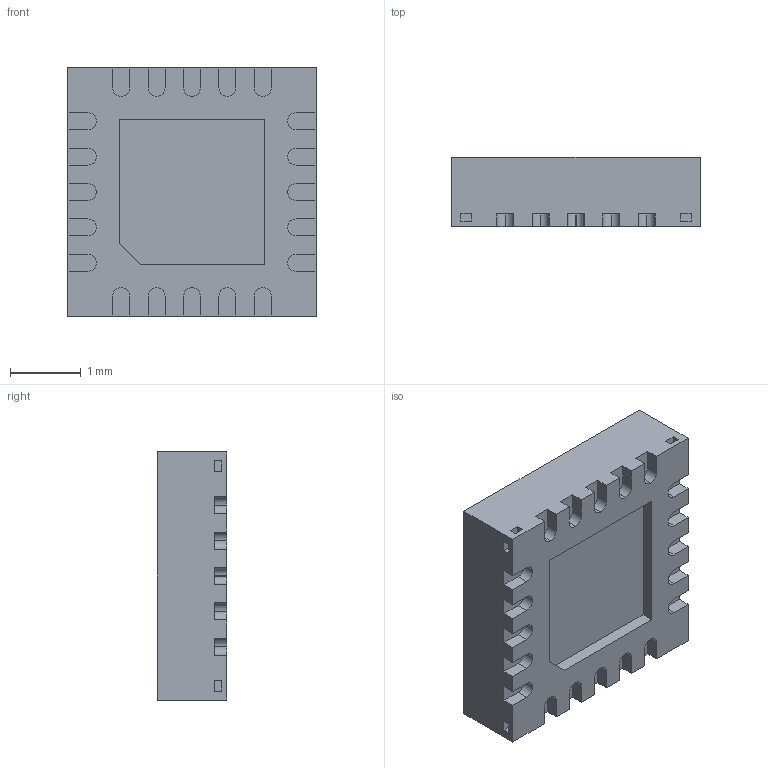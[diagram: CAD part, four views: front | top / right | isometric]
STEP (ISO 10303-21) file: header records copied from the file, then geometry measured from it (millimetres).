
FILE_DESCRIPTION(('FreeCAD Model'),'2;1');
FILE_NAME('Open CASCADE Shape Model','2024-11-04T22:26:20',('Author'),( ''),'Open CASCADE STEP processor 7.6','FreeCAD','Unknown');
FILE_SCHEMA(('AUTOMOTIVE_DESIGN { 1 0 10303 214 1 1 1 1 }'));
Length unit declared in the file: millimetre
Products named in the file (1): BODY
Bounding box: 3.5 x 0.97 x 3.5 mm (x, y, z)
Volume: 10.9 mm3; surface area: 42.7 mm2
Topology: 1 solids, 1 shells, 156 faces, 459 edges, 306 vertices
Faces by surface type: plane 116, cylinder 40
Entity records: 5200 total; most frequent: CARTESIAN_POINT 922, ORIENTED_EDGE 918, DIRECTION 853, EDGE_CURVE 459, LINE 379, VECTOR 379, VERTEX_POINT 306, AXIS2_PLACEMENT_3D 237
